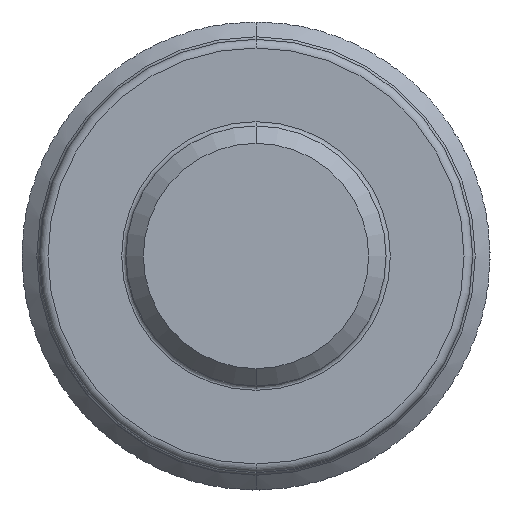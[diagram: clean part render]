
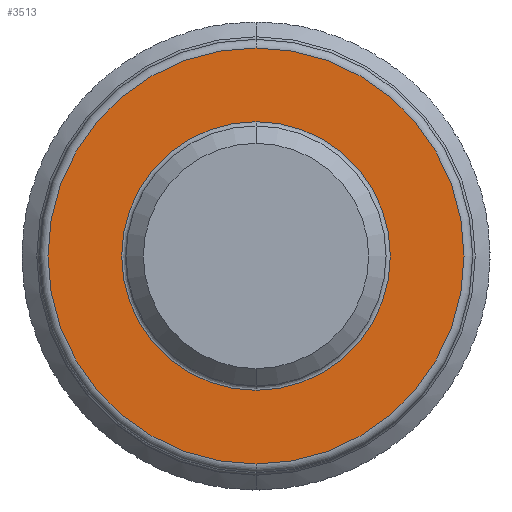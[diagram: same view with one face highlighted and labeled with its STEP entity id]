
A CAD part, front view. The second image highlights one B-rep face of the part: STEP entity #3513.
In plain terms, the highlighted planar face has unit normal (0, -1, 0).
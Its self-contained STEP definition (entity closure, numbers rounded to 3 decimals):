
#126 = EDGE_CURVE ( 'NONE', #6066, #7975, #5737, .T. ) ;
#470 = DIRECTION ( 'NONE',  ( 0., 0., -1. ) ) ;
#689 = DIRECTION ( 'NONE',  ( 0., 0., -1. ) ) ;
#869 = EDGE_CURVE ( 'NONE', #7443, #8126, #3855, .T. ) ;
#902 = FACE_OUTER_BOUND ( 'NONE', #4321, .T. ) ;
#1002 = PLANE ( 'NONE',  #8873 ) ;
#1390 = CARTESIAN_POINT ( 'NONE',  ( 0., -3., 0. ) ) ;
#1723 = CARTESIAN_POINT ( 'NONE',  ( 1.5, -3., 0. ) ) ;
#1737 = CARTESIAN_POINT ( 'NONE',  ( 0., -3., 2.4 ) ) ;
#1929 = AXIS2_PLACEMENT_3D ( 'NONE', #2977, #2172, #4495 ) ;
#2053 = DIRECTION ( 'NONE',  ( 0., -1., 0. ) ) ;
#2172 = DIRECTION ( 'NONE',  ( 0., -1., 0. ) ) ;
#2501 = AXIS2_PLACEMENT_3D ( 'NONE', #1390, #2053, #470 ) ;
#2762 = ORIENTED_EDGE ( 'NONE', *, *, #6407, .T. ) ;
#2977 = CARTESIAN_POINT ( 'NONE',  ( 0., -3., 0. ) ) ;
#3100 = EDGE_LOOP ( 'NONE', ( #5816, #4856 ) ) ;
#3209 = AXIS2_PLACEMENT_3D ( 'NONE', #7676, #6769, #689 ) ;
#3231 = CARTESIAN_POINT ( 'NONE',  ( 0., -3., -1.55 ) ) ;
#3285 = FACE_BOUND ( 'NONE', #3100, .T. ) ;
#3513 = ADVANCED_FACE ( 'NONE', ( #3285, #902 ), #1002, .T. ) ;
#3600 = CARTESIAN_POINT ( 'NONE',  ( 0., -3., -2.4 ) ) ;
#3855 = CIRCLE ( 'NONE', #4012, 1.55 ) ;
#4012 = AXIS2_PLACEMENT_3D ( 'NONE', #8379, #9750, #9133 ) ;
#4321 = EDGE_LOOP ( 'NONE', ( #5501, #2762 ) ) ;
#4495 = DIRECTION ( 'NONE',  ( 0., 0., -1. ) ) ;
#4666 = CIRCLE ( 'NONE', #3209, 1.55 ) ;
#4856 = ORIENTED_EDGE ( 'NONE', *, *, #869, .T. ) ;
#5328 = CIRCLE ( 'NONE', #1929, 2.4 ) ;
#5501 = ORIENTED_EDGE ( 'NONE', *, *, #126, .T. ) ;
#5737 = CIRCLE ( 'NONE', #2501, 2.4 ) ;
#5816 = ORIENTED_EDGE ( 'NONE', *, *, #8482, .T. ) ;
#6066 = VERTEX_POINT ( 'NONE', #3600 ) ;
#6323 = DIRECTION ( 'NONE',  ( 0., -1., 0. ) ) ;
#6407 = EDGE_CURVE ( 'NONE', #7975, #6066, #5328, .T. ) ;
#6769 = DIRECTION ( 'NONE',  ( 0., 1., 0. ) ) ;
#7443 = VERTEX_POINT ( 'NONE', #9024 ) ;
#7676 = CARTESIAN_POINT ( 'NONE',  ( 0., -3., 0. ) ) ;
#7975 = VERTEX_POINT ( 'NONE', #1737 ) ;
#8126 = VERTEX_POINT ( 'NONE', #3231 ) ;
#8379 = CARTESIAN_POINT ( 'NONE',  ( 0., -3., 0. ) ) ;
#8482 = EDGE_CURVE ( 'NONE', #8126, #7443, #4666, .T. ) ;
#8873 = AXIS2_PLACEMENT_3D ( 'NONE', #1723, #6323, #9499 ) ;
#9024 = CARTESIAN_POINT ( 'NONE',  ( 0., -3., 1.55 ) ) ;
#9133 = DIRECTION ( 'NONE',  ( 0., 0., -1. ) ) ;
#9499 = DIRECTION ( 'NONE',  ( 0., 0., -1. ) ) ;
#9750 = DIRECTION ( 'NONE',  ( 0., 1., 0. ) ) ;
